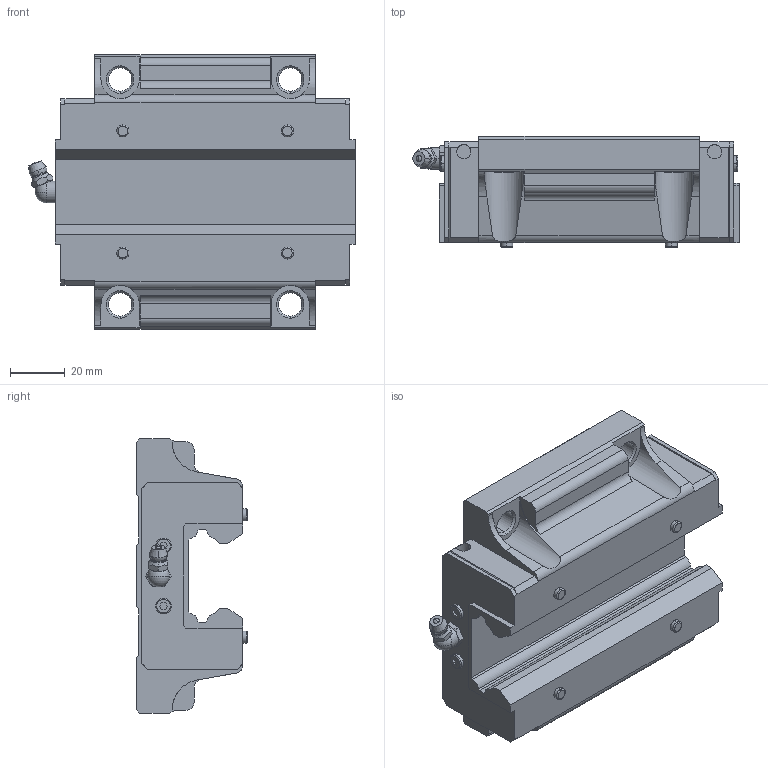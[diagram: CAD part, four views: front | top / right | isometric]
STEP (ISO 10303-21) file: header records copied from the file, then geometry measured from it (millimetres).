
FILE_DESCRIPTION (( 'STEP AP203' ), '1' );
FILE_NAME ('HSR35C_SW2020.STEP', '2020-06-02T18:11:49', ( '' ), ( '' ), 'SwSTEP 2.0', 'SolidWorks 2020', '' );
FILE_SCHEMA (( 'CONFIG_CONTROL_DESIGN' ));
Length unit declared in the file: millimetre
Products named in the file (1): HSR35C_SW2020
Bounding box: 119 x 40.5 x 100 mm (x, y, z)
Volume: 263178.6 mm3; surface area: 40354 mm2
Topology: 2 solids, 2 shells, 304 faces, 798 edges, 508 vertices
Faces by surface type: plane 176, cylinder 64, cone 36, torus 22, sphere 6
Entity records: 10294 total; most frequent: CARTESIAN_POINT 2671, ORIENTED_EDGE 1582, DIRECTION 1572, EDGE_CURVE 791, AXIS2_PLACEMENT_3D 528, VECTOR 516, LINE 516, VERTEX_POINT 508
